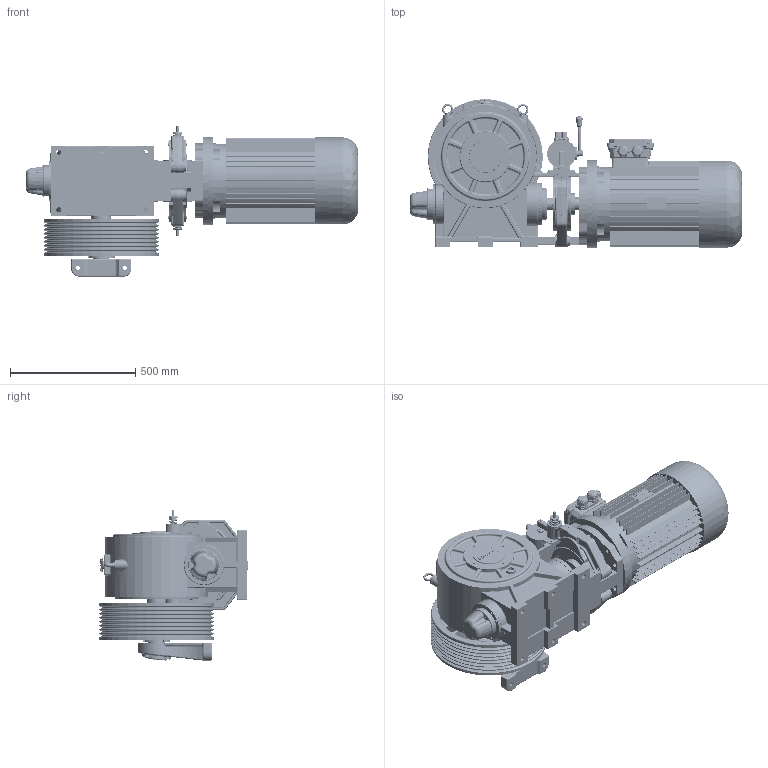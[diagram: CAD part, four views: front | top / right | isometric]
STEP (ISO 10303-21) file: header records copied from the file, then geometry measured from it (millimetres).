
FILE_DESCRIPTION (( 'STEP AP214' ), '1' );
FILE_NAME ('FC2212021.STEP', '2025-12-23T10:54:18', ( '' ), ( '' ), 'SwSTEP 2.0', 'SolidWorks 2023', '' );
FILE_SCHEMA (( 'AUTOMOTIVE_DESIGN' ));
Length unit declared in the file: millimetre
Products named in the file (1): FC2212021
Bounding box: 1327 x 743.88 x 676.07 mm (x, y, z)
Volume: 118308404.9 mm3; surface area: 5868923.4 mm2
Topology: 53 solids, 61 shells, 5691 faces, 13709 edges, 8220 vertices
Faces by surface type: cylinder 1722, plane 1491, bspline 1172, torus 574, cone 469, sphere 263
Entity records: 235658 total; most frequent: CARTESIAN_POINT 111370, ORIENTED_EDGE 27016, DIRECTION 24201, EDGE_CURVE 13508, AXIS2_PLACEMENT_3D 9687, VERTEX_POINT 8216, EDGE_LOOP 6270, ADVANCED_FACE 5691
